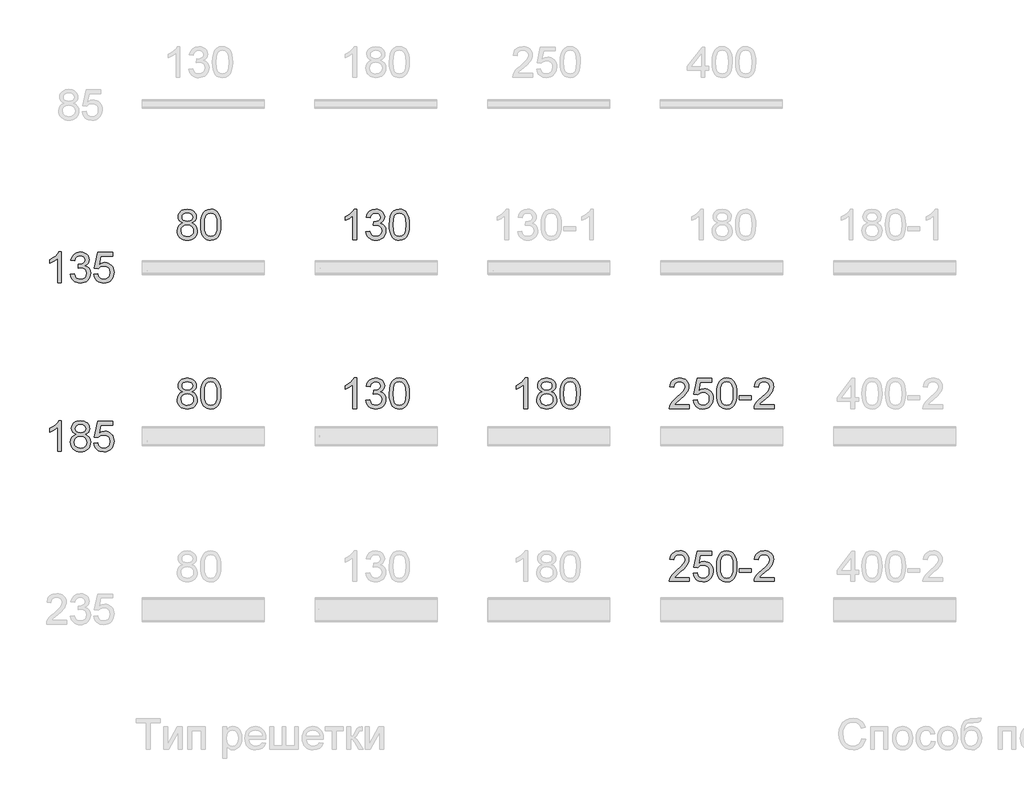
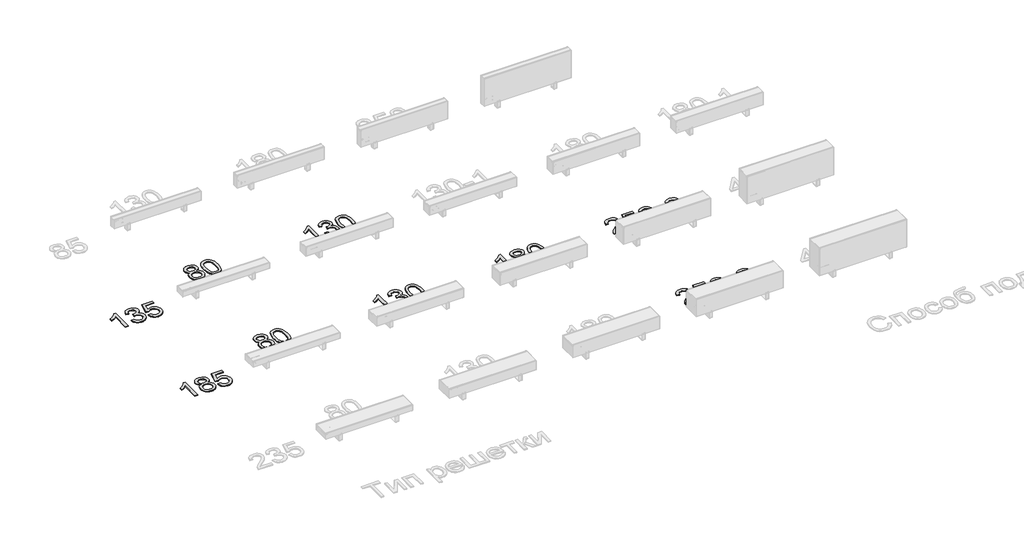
# One storey, part 4 of 7: 9 proxies.
"""IFC4 building model written with IfcOpenShell, lengths in millimetres."""

import ifcopenshell
import ifcopenshell.guid

model = None  # the IFC model being written
_history = None  # IfcOwnerHistory: only IFC2X3 demands one
_inside = {}  # id of a spatial element -> (the spatial element, [elements in it])
_under = {}  # id of a project, library or spatial element -> (it, [spatial elements below it])
_declared = {}  # id of a project -> (the project, [libraries it declares])
_typed = {}  # id of a type object -> (the type object, [elements of that type])
_made_of = {}  # id of a material, layer set ... -> (it, [elements and type objects made of it])


def new_model(schema):
    """Start an empty IFC model of exactly this schema.

    Asked for "IFC4X3", IfcOpenShell would pick the latest addendum, in which some entities
    have other attributes; the version numbers below select the first issue.
    IFC2X3 requires an IfcOwnerHistory on every rooted entity: one is made here for all.
    """
    global model, _history
    if schema == "IFC4X3":
        model = ifcopenshell.file(schema_version=(4, 3, 0, 0))
    else:
        model = ifcopenshell.file(schema=schema)
    _inside.clear()
    _under.clear()
    _declared.clear()
    _typed.clear()
    _made_of.clear()
    _history = None
    if model.schema == "IFC2X3":
        org = make("IfcOrganization", Name="unknown")
        user = make(
            "IfcPersonAndOrganization",
            ThePerson=make("IfcPerson", FamilyName="unknown"),
            TheOrganization=org,
        )
        app = make(
            "IfcApplication",
            ApplicationDeveloper=org,
            Version="unknown",
            ApplicationFullName="unknown",
            ApplicationIdentifier="unknown",
        )
        _history = make(
            "IfcOwnerHistory",
            OwningUser=user,
            OwningApplication=app,
            ChangeAction="ADDED",
            CreationDate=0,
        )
    return model


def make(cls, **values):
    """One entity of the class cls with the attributes given. An attribute that is None is left unset."""
    return model.create_entity(
        cls, **{name: value for name, value in values.items() if value is not None}
    )


def rooted(cls, **values):
    """An entity with a GlobalId (a new one), such as an element, a storey or a relation."""
    return make(cls, GlobalId=ifcopenshell.guid.new(), OwnerHistory=_history, **values)


def si_unit(unit_type, name, prefix=None):
    """IfcSIUnit, for example si_unit("LENGTHUNIT", "METRE", prefix="MILLI")."""
    return make("IfcSIUnit", UnitType=unit_type, Prefix=prefix, Name=name)


def assignment(units):
    """IfcUnitAssignment: the units of a project."""
    return None if units is None else make("IfcUnitAssignment", Units=units)


def point(xyz):
    """IfcCartesianPoint."""
    return None if xyz is None else make("IfcCartesianPoint", Coordinates=xyz)


def direction(xyz):
    """IfcDirection."""
    return None if xyz is None else make("IfcDirection", DirectionRatios=xyz)


def frame(location, z_axis=None, x_axis=None):
    """IfcAxis2Placement3D, a coordinate frame: its origin and axes. An axis left out is left unset."""
    return make(
        "IfcAxis2Placement3D",
        Location=point(location),
        Axis=direction(z_axis),
        RefDirection=direction(x_axis),
    )


def origin():
    """The frame at (0, 0, 0) with its axes left unset."""
    return frame((0.0, 0.0, 0.0))


def origin_with_axes():
    """The frame at (0, 0, 0) with the z axis (0, 0, 1) and the x axis (1, 0, 0) written out."""
    return frame((0.0, 0.0, 0.0), z_axis=(0.0, 0.0, 1.0), x_axis=(1.0, 0.0, 0.0))


def place(relative_to, where):
    """IfcLocalPlacement: puts the frame where relative to a parent placement (None: the world)."""
    return make(
        "IfcLocalPlacement", PlacementRelTo=relative_to, RelativePlacement=where
    )


def context(
    kind, dimensions, precision=None, world=None, true_north=None, identifier=None
):
    """IfcGeometricRepresentationContext, for example the 3D "Model" context."""
    return make(
        "IfcGeometricRepresentationContext",
        ContextIdentifier=identifier,
        ContextType=kind,
        CoordinateSpaceDimension=dimensions,
        Precision=precision,
        WorldCoordinateSystem=world,
        TrueNorth=true_north,
    )


def project(units=None, contexts=None):
    """IfcProject with its units and contexts."""
    return rooted(
        "IfcProject",
        Name="project",
        RepresentationContexts=contexts,
        UnitsInContext=assignment(units),
    )


def spatial(cls, under=None, at=None, **own):
    """A site, building, storey or space (cls), placed at a placement, below another one or the project."""
    s = rooted(cls, ObjectPlacement=at, **own)
    if under is not None:
        _under.setdefault(under.id(), (under, []))[1].append(s)
    return s


def polyline(points):
    """IfcPolyline through the points."""
    return make("IfcPolyline", Points=[point(p) for p in points])


def outline(outer, holes=None, kind="AREA"):
    """IfcArbitraryClosedProfileDef: a profile drawn as a closed curve; with holes, ...WithVoids."""
    if holes is None:
        return make("IfcArbitraryClosedProfileDef", ProfileType=kind, OuterCurve=outer)
    return make(
        "IfcArbitraryProfileDefWithVoids",
        ProfileType=kind,
        OuterCurve=outer,
        InnerCurves=holes,
    )


def extrude(swept, where, along, depth):
    """IfcExtrudedAreaSolid: the profile swept, set in the frame where, extruded along a direction by depth."""
    return make(
        "IfcExtrudedAreaSolid",
        SweptArea=swept,
        Position=where,
        ExtrudedDirection=direction(along),
        Depth=depth,
    )


def shape(context_of_items, identifier, shape_type, items):
    """IfcShapeRepresentation: the items that make up one representation, for example the "Body"."""
    return make(
        "IfcShapeRepresentation",
        ContextOfItems=context_of_items,
        RepresentationIdentifier=identifier,
        RepresentationType=shape_type,
        Items=items,
    )


def made_of(thing, what):
    """Note that an element or type object is made of a material, layer set ...; save() writes the relation."""
    if what is not None:
        _made_of.setdefault(what.id(), (what, []))[1].append(thing)
    return thing


def element(
    cls,
    number,
    at=None,
    inside=None,
    cuts=None,
    type_object=None,
    material=None,
    context=None,
    identifier="Body",
    shape_type=None,
    held_by="IfcProductDefinitionShape",
    body=None,
    shapes=None,
    **own,
):
    """One element of the class cls, such as IfcWall. Its Tag is "e" and its number.

    at: its placement. inside: the storey or other place that contains it. cuts: it is an
    opening in that element (IfcRelVoidsElement). A single representation is given by context,
    identifier, shape_type and body (its items); several are given by shapes. held_by: the class
    of the entity that holds the representations. save() writes the other relations.
    """
    e = rooted(cls, Tag="e%d" % number, ObjectPlacement=at, **own)
    if body is not None:
        shapes = [shape(context, identifier, shape_type, body)]
    if shapes is not None:
        e.Representation = make(held_by, Representations=shapes)
    if inside is not None:
        _inside.setdefault(inside.id(), (inside, []))[1].append(e)
    if cuts is not None:
        rooted(
            "IfcRelVoidsElement", RelatingBuildingElement=cuts, RelatedOpeningElement=e
        )
    if type_object is not None:
        _typed.setdefault(type_object.id(), (type_object, []))[1].append(e)
    return made_of(e, material)


def aggregate(whole, parts):
    """IfcRelAggregates: a whole, such as a stair, and the parts it consists of."""
    return rooted("IfcRelAggregates", RelatingObject=whole, RelatedObjects=parts)


def save(model, path):
    """Write the relations noted so far, then the file.

    IfcRelAggregates (storeys below a building ...), IfcRelContainedInSpatialStructure (elements
    in a storey), IfcRelDefinesByType, IfcRelAssociatesMaterial and IfcRelDeclares: one each for
    every whole, place, type object, material and project.
    """
    for whole, parts in _under.values():
        aggregate(whole, parts)
    for where, things in _inside.values():
        rooted(
            "IfcRelContainedInSpatialStructure",
            RelatedElements=things,
            RelatingStructure=where,
        )
    for kind, things in _typed.values():
        rooted("IfcRelDefinesByType", RelatedObjects=things, RelatingType=kind)
    for what, things in _made_of.values():
        rooted("IfcRelAssociatesMaterial", RelatedObjects=things, RelatingMaterial=what)
    for by, libraries in _declared.values():
        rooted("IfcRelDeclares", RelatingContext=by, RelatedDefinitions=libraries)
    model.write(path)


model = new_model("IFC4")

# Units and contexts
model_context = context("Model", 3, world=origin())
ifc_project = project(units=[si_unit("LENGTHUNIT", "METRE", prefix="MILLI")], contexts=[model_context])

# Site, building, storey
site = spatial("IfcSite", under=ifc_project)
building = spatial("IfcBuilding", under=site)
storey = spatial("IfcBuildingStorey", under=building, Name="Уровень 1", Elevation=0.0)

# Proxies
placement = place(None, origin())
element("IfcBuildingElementProxy", 1, Name="Текст модели 1", ObjectType="Текст модели 1", at=placement, inside=storey, context=model_context, shape_type="SweptSolid", body=[
    extrude(outline(polyline([(1521.1954966, -974.7822779), (1501.0263662, -964.849464), (1486.8721064, -951.384983), (1478.5119881, -934.6647463), (1475.725282, -914.9646655), (1477.2427952, -899.6009936), (1481.7953349, -885.5157117), (1489.382901, -872.7088198), (1500.0054937, -861.1803178), (1513.1526765, -851.6521741), (1528.3140132, -844.8463572), (1564.6791484, -839.4017036), (1601.2650128, -844.9751159), (1616.5918964, -851.9418812), (1629.9414143, -861.6953525), (1640.757145, -873.4491823), (1648.4826669, -886.4170226), (1653.11798, -900.5988735), (1654.6630844, -915.994735), (1651.9131665, -935.0602194), (1643.6634128, -951.4953476), (1629.8218527, -964.8770551), (1610.2965158, -974.7822779), (1633.4822786, -986.7292457), (1650.3588651, -1004.3232021), (1660.6503639, -1026.7180185), (1664.0808635, -1053.0675664), (1662.3794093, -1071.8571393), (1657.2750466, -1089.0832138), (1648.7677755, -1104.7457897), (1636.8575959, -1118.8448672), (1622.1699072, -1130.4975294), (1605.3301089, -1138.8208595), (1586.3382009, -1143.8148576), (1565.1941832, -1145.4795236), (1544.0501655, -1143.8079598), (1525.0582575, -1138.7932684), (1508.2184592, -1130.4354493), (1493.5307705, -1118.7345026), (1481.6205909, -1104.5365568), (1473.1133198, -1088.6877406), (1468.0089571, -1071.188054), (1466.3075029, -1052.0374969), (1469.8759582, -1024.6670764), (1480.5813243, -1002.1526983), (1497.8717781, -985.2669147), (1521.1954966, -974.7822779)]), holes=[polyline([(1503.9786192, -1050.7131217), (1510.2694013, -1079.0768235), (1518.9790076, -1091.2445205), (1532.526262, -1100.3036146), (1548.749858, -1105.9322091), (1565.4884888, -1107.8084073), (1591.1298639, -1103.8628729), (1610.3700922, -1092.0262697), (1622.3998334, -1074.1012195), (1626.4097472, -1051.8903441), (1622.2710747, -1029.3023896), (1609.8550574, -1010.9818662), (1590.1733707, -998.8417604), (1564.23769, -994.7950584), (1538.9549999, -998.7865781), (1519.9079096, -1010.761137), (1507.9609418, -1028.7321725), (1503.9786192, -1050.7131217)]), polyline([(1513.3963983, -916.0683114), (1516.7349274, -932.5126366), (1526.7505147, -945.6460238), (1543.1488546, -954.2544625), (1565.6356416, -957.1239421), (1587.5981967, -954.2728566), (1603.7482163, -945.7196002), (1613.6810302, -933.0276714), (1616.9919681, -917.7605686), (1613.5706656, -901.9140517), (1603.3067579, -888.8082556), (1586.9360091, -880.0066789), (1565.1941832, -877.0728199), (1543.3144015, -879.9422995), (1526.9712439, -888.5507382), (1516.7901097, -901.1690906), (1513.3963983, -916.0683114)])]), origin_with_axes(), (0.0, 0.0, 1.0), 10.0),
    extrude(outline(polyline([(1697.0430903, -992.51419), (1699.8114023, -944.2756634), (1708.1163383, -905.8044038), (1721.8751249, -876.5117999), (1741.0049887, -855.8092406), (1765.6438853, -843.5035879), (1795.9297706, -839.4017036), (1819.1431245, -841.8297248), (1839.9284572, -849.1137883), (1857.3108815, -860.9687856), (1870.31551, -877.1096081), (1880.1379593, -897.3983002), (1887.9738458, -921.696906), (1893.1057996, -952.5530083), (1894.8164509, -992.51419), (1892.07573, -1040.4768052), (1883.8535674, -1078.8560943), (1870.1775542, -1108.1762893), (1851.0752817, -1128.961622), (1826.3812027, -1141.3500482), (1795.9297706, -1145.4795236), (1775.181226, -1143.6860989), (1756.7871263, -1138.3058247), (1740.7474713, -1129.3387011), (1727.0622611, -1116.784728), (1713.9288738, -1094.0910074), (1704.547883, -1065.8146776), (1698.9192884, -1031.9557384), (1697.0430903, -992.51419)]), holes=[polyline([(1734.7142066, -992.4406136), (1739.1287905, -1051.697206), (1744.6470204, -1071.9652047), (1752.3725423, -1085.993005), (1772.0910173, -1102.3545567), (1795.9297706, -1107.8084073), (1819.7685239, -1102.3361626), (1839.4869988, -1085.9194286), (1847.2125207, -1071.8686357), (1852.7307506, -1051.6052355), (1857.1453346, -992.4406136), (1852.8779034, -934.5175935), (1847.5436145, -914.3162734), (1840.07561, -899.95508), (1820.3939233, -882.793385), (1795.4883122, -877.0728199), (1771.9070763, -882.1128033), (1752.9611535, -897.2327533), (1744.9781142, -912.8677381), (1739.2759433, -933.9473764), (1734.7142066, -992.4406136)])]), origin_with_axes(), (0.0, 0.0, 1.0), 10.0),
])
element("IfcBuildingElementProxy", 2, Name="Текст модели 1", ObjectType="Текст модели 1", at=placement, inside=storey, context=model_context, shape_type="SweptSolid", body=[
    extrude(outline(polyline([(326.9394751, -1561.3403521), (289.2683588, -1561.3403521), (289.2683588, -1326.4844864), (253.5838053, -1351.9051323), (213.9261262, -1370.9246314), (213.9261262, -1335.3136543), (243.5130357, -1319.218817), (269.1452137, -1300.0705591), (289.3511323, -1279.7082907), (302.6592634, -1259.9714217), (326.9394751, -1259.9714217), (326.9394751, -1561.3403521)])), origin_with_axes(), (0.0, 0.0, 1.0), 10.0),
    extrude(outline(polyline([(416.4083764, -1481.28923), (454.0794927, -1476.5803404), (462.5131874, -1500.2535468), (474.8648254, -1516.2380195), (491.7414119, -1525.3430989), (513.7499523, -1528.3781253), (539.5752683, -1524.2026647), (559.5144725, -1511.6762828), (572.2615836, -1492.9878774), (576.5106207, -1470.3263465), (572.2983718, -1448.8144468), (559.6616253, -1431.3676432), (540.5317615, -1419.8069515), (516.840161, -1415.9533876), (490.4262338, -1420.073666), (494.6200885, -1382.4025497), (500.6533533, -1382.844008), (523.2229137, -1380.1400754), (543.4012411, -1372.0282774), (557.6382743, -1358.306279), (562.383952, -1338.771745), (558.9442554, -1322.5021638), (548.6251654, -1309.3043972), (532.879816, -1300.5580028), (513.1613411, -1297.642538), (493.4060779, -1300.5855939), (477.2560584, -1309.4147618), (465.4654404, -1324.1300416), (458.7883822, -1344.7314333), (421.1172659, -1340.0225438), (432.2089081, -1306.1957944), (451.9457771, -1280.9406954), (478.9483155, -1265.2137401), (511.8369659, -1259.9714217), (535.5193693, -1262.5557927), (557.2703923, -1270.3089057), (575.6093098, -1282.5409821), (589.0553967, -1298.562243), (597.3051504, -1317.0207221), (600.0550684, -1336.5644531), (597.4431062, -1354.7746118), (589.6072197, -1371.2925134), (576.6577735, -1385.3639997), (558.7051321, -1396.2349127), (582.286368, -1405.7630563), (599.7607628, -1421.9866523), (610.5764934, -1444.0227838), (614.181737, -1470.9885341), (612.3791152, -1490.1000037), (606.9712499, -1507.7031572), (597.958141, -1523.7979945), (585.3397885, -1538.3845156), (569.9669197, -1550.4878332), (552.6902615, -1559.1330601), (533.5098139, -1564.3201963), (512.4255771, -1566.0492416), (493.3692897, -1564.5731151), (476.0052596, -1560.1447356), (460.3334866, -1552.7641031), (446.3539708, -1542.4312176), (434.6323307, -1529.7530843), (425.7341849, -1515.3367086), (419.6595335, -1499.1820905), (416.4083764, -1481.28923)])), origin_with_axes(), (0.0, 0.0, 1.0), 10.0),
    extrude(outline(polyline([(647.1439637, -1481.28923), (684.81508, -1476.5803404), (691.7312615, -1499.1958861), (703.797791, -1515.3918909), (720.9594861, -1525.1315667), (743.1611645, -1528.3781253), (770.1637029, -1523.8623738), (790.3972127, -1510.3151194), (803.0339592, -1489.2998604), (807.246208, -1462.3800954), (803.3006736, -1437.0330259), (791.4640704, -1417.6456448), (771.644428, -1405.3399921), (743.7497757, -1401.2381078), (725.4752376, -1402.8751827), (710.6771843, -1407.7864073), (689.5239696, -1424.7825555), (651.8528533, -1420.073666), (684.81508, -1264.6803112), (830.7906557, -1264.6803112), (830.7906557, -1302.3514275), (715.2757092, -1302.3514275), (699.1624779, -1385.3456056), (726.0730458, -1369.011645), (754.2712007, -1363.5669915), (772.617016, -1365.2546502), (789.4683106, -1370.3176261), (804.8250847, -1378.7559194), (818.6873381, -1390.5695299), (830.1629571, -1405.0364894), (838.3598278, -1421.4348293), (843.2779502, -1439.7645497), (844.9173243, -1460.0256506), (839.0128183, -1497.6967669), (831.6321858, -1514.49058), (821.2993002, -1529.9232297), (805.6459214, -1545.7283599), (787.3805803, -1557.0177387), (766.5032771, -1563.7913659), (743.0140117, -1566.0492416), (706.01428, -1560.2459032), (690.3356092, -1552.9917301), (676.5377351, -1542.8358877), (665.0575176, -1530.2842139), (656.3318166, -1515.8425464), (647.1439637, -1481.28923)])), origin_with_axes(), (0.0, 0.0, 1.0), 10.0),
])
element("IfcBuildingElementProxy", 3, Name="Текст модели 1", ObjectType="Текст модели 1", at=placement, inside=storey, context=model_context, shape_type="SweptSolid", body=[
    extrude(outline(polyline([(3232.2063954, -1140.7706341), (3194.535279, -1140.7706341), (3194.535279, -905.9147684), (3158.8507255, -931.3354142), (3119.1930464, -950.3549134), (3119.1930464, -914.7439363), (3148.7799559, -898.649099), (3174.4121339, -879.5008411), (3194.6180525, -859.1385727), (3207.9261837, -839.4017036), (3232.2063954, -839.4017036), (3232.2063954, -1140.7706341)])), origin_with_axes(), (0.0, 0.0, 1.0), 10.0),
    extrude(outline(polyline([(3321.6752966, -1060.7195119), (3359.3464129, -1056.0106224), (3367.7801076, -1079.6838288), (3380.1317456, -1095.6683015), (3397.0083321, -1104.7733809), (3419.0168725, -1107.8084073), (3444.8421886, -1103.6329467), (3464.7813927, -1091.1065647), (3477.5285038, -1072.4181594), (3481.7775409, -1049.7566285), (3477.565292, -1028.2447288), (3464.9285455, -1010.7979252), (3445.7986818, -999.2372335), (3422.1070813, -995.3836696), (3395.693154, -999.5039479), (3399.8870088, -961.8328316), (3405.9202735, -962.27429), (3428.4898339, -959.5703574), (3448.6681613, -951.4585594), (3462.9051945, -937.736561), (3467.6508723, -918.202027), (3464.2111756, -901.9324458), (3453.8920856, -888.7346792), (3438.1467363, -879.9882848), (3418.4282613, -877.0728199), (3398.6729982, -880.0158759), (3382.5229786, -888.8450438), (3370.7323606, -903.5603236), (3364.0553024, -924.1617153), (3326.3841861, -919.4528258), (3337.4758283, -885.6260763), (3357.2126973, -860.3709774), (3384.2152358, -844.6440221), (3417.1038861, -839.4017036), (3440.7862896, -841.9860747), (3462.5373125, -849.7391877), (3480.87623, -861.971264), (3494.3223169, -877.9925249), (3502.5720707, -896.451004), (3505.3219886, -915.994735), (3502.7100264, -934.2048938), (3494.8741399, -950.7227954), (3481.9246937, -964.7942817), (3463.9720523, -975.6651947), (3487.5532882, -985.1933383), (3505.027683, -1001.4169343), (3515.8434136, -1023.4530658), (3519.4486572, -1050.4188161), (3517.6460354, -1069.5302857), (3512.2381701, -1087.1334392), (3503.2250612, -1103.2282765), (3490.6067088, -1117.8147976), (3475.2338399, -1129.9181152), (3457.9571817, -1138.5633421), (3438.7767342, -1143.7504783), (3417.6924973, -1145.4795236), (3398.63621, -1144.0033971), (3381.2721798, -1139.5750176), (3365.6004068, -1132.1943851), (3351.620891, -1121.8614995), (3339.8992509, -1109.1833663), (3331.0011052, -1094.7669906), (3324.9264537, -1078.6123725), (3321.6752966, -1060.7195119)])), origin_with_axes(), (0.0, 0.0, 1.0), 10.0),
    extrude(outline(polyline([(3552.410884, -992.51419), (3555.179196, -944.2756634), (3563.484132, -905.8044038), (3577.2429186, -876.5117999), (3596.3727824, -855.8092406), (3621.011679, -843.5035879), (3651.2975643, -839.4017036), (3674.5109182, -841.8297248), (3695.2962509, -849.1137883), (3712.6786752, -860.9687856), (3725.6833037, -877.1096081), (3735.505753, -897.3983002), (3743.3416395, -921.696906), (3748.4735933, -952.5530083), (3750.1842446, -992.51419), (3747.4435237, -1040.4768052), (3739.2213611, -1078.8560943), (3725.5453479, -1108.1762893), (3706.4430753, -1128.961622), (3681.7489964, -1141.3500482), (3651.2975643, -1145.4795236), (3630.5490197, -1143.6860989), (3612.15492, -1138.3058247), (3596.115265, -1129.3387011), (3582.4300548, -1116.784728), (3569.2966675, -1094.0910074), (3559.9156767, -1065.8146776), (3554.2870821, -1031.9557384), (3552.410884, -992.51419)]), holes=[polyline([(3590.0820003, -992.4406136), (3594.4965842, -1051.697206), (3600.0148141, -1071.9652047), (3607.740336, -1085.993005), (3627.458811, -1102.3545567), (3651.2975643, -1107.8084073), (3675.1363175, -1102.3361626), (3694.8547925, -1085.9194286), (3702.5803144, -1071.8686357), (3708.0985443, -1051.6052355), (3712.5131283, -992.4406136), (3708.2456971, -934.5175935), (3702.9114082, -914.3162734), (3695.4434037, -899.95508), (3675.7617169, -882.793385), (3650.8561059, -877.0728199), (3627.27487, -882.1128033), (3608.3289472, -897.2327533), (3600.3459079, -912.8677381), (3594.643737, -933.9473764), (3590.0820003, -992.4406136)])]), origin_with_axes(), (0.0, 0.0, 1.0), 10.0),
])
element("IfcBuildingElementProxy", 4, Name="Текст модели 1", ObjectType="Текст модели 1", at=placement, inside=storey, context=model_context, shape_type="SweptSolid", body=[
    extrude(outline(polyline([(1521.1954966, -2634.7822779), (1501.0263662, -2624.849464), (1486.8721064, -2611.384983), (1478.5119881, -2594.6647463), (1475.725282, -2574.9646655), (1477.2427952, -2559.6009936), (1481.7953349, -2545.5157117), (1489.382901, -2532.7088198), (1500.0054937, -2521.1803178), (1513.1526765, -2511.6521741), (1528.3140132, -2504.8463572), (1564.6791484, -2499.4017036), (1601.2650128, -2504.9751159), (1616.5918964, -2511.9418812), (1629.9414143, -2521.6953525), (1640.757145, -2533.4491823), (1648.4826669, -2546.4170226), (1653.11798, -2560.5988735), (1654.6630844, -2575.994735), (1651.9131665, -2595.0602194), (1643.6634128, -2611.4953476), (1629.8218527, -2624.8770551), (1610.2965158, -2634.7822779), (1633.4822786, -2646.7292457), (1650.3588651, -2664.3232021), (1660.6503639, -2686.7180185), (1664.0808635, -2713.0675664), (1662.3794093, -2731.8571393), (1657.2750466, -2749.0832138), (1648.7677755, -2764.7457897), (1636.8575959, -2778.8448672), (1622.1699072, -2790.4975294), (1605.3301089, -2798.8208595), (1586.3382009, -2803.8148576), (1565.1941832, -2805.4795236), (1544.0501655, -2803.8079598), (1525.0582575, -2798.7932684), (1508.2184592, -2790.4354493), (1493.5307705, -2778.7345026), (1481.6205909, -2764.5365568), (1473.1133198, -2748.6877406), (1468.0089571, -2731.188054), (1466.3075029, -2712.0374969), (1469.8759582, -2684.6670764), (1480.5813243, -2662.1526983), (1497.8717781, -2645.2669147), (1521.1954966, -2634.7822779)]), holes=[polyline([(1503.9786192, -2710.7131217), (1510.2694013, -2739.0768235), (1518.9790076, -2751.2445205), (1532.526262, -2760.3036146), (1548.749858, -2765.9322091), (1565.4884888, -2767.8084073), (1591.1298639, -2763.8628729), (1610.3700922, -2752.0262697), (1622.3998334, -2734.1012195), (1626.4097472, -2711.8903441), (1622.2710747, -2689.3023896), (1609.8550574, -2670.9818662), (1590.1733707, -2658.8417604), (1564.23769, -2654.7950584), (1538.9549999, -2658.7865781), (1519.9079096, -2670.761137), (1507.9609418, -2688.7321725), (1503.9786192, -2710.7131217)]), polyline([(1513.3963983, -2576.0683114), (1516.7349274, -2592.5126366), (1526.7505147, -2605.6460238), (1543.1488546, -2614.2544625), (1565.6356416, -2617.1239421), (1587.5981967, -2614.2728566), (1603.7482163, -2605.7196002), (1613.6810302, -2593.0276714), (1616.9919681, -2577.7605686), (1613.5706656, -2561.9140517), (1603.3067579, -2548.8082556), (1586.9360091, -2540.0066789), (1565.1941832, -2537.0728199), (1543.3144015, -2539.9422995), (1526.9712439, -2548.5507382), (1516.7901097, -2561.1690906), (1513.3963983, -2576.0683114)])]), origin_with_axes(), (0.0, 0.0, 1.0), 10.0),
    extrude(outline(polyline([(1697.0430903, -2652.51419), (1699.8114023, -2604.2756634), (1708.1163383, -2565.8044038), (1721.8751249, -2536.5117999), (1741.0049887, -2515.8092406), (1765.6438853, -2503.5035879), (1795.9297706, -2499.4017036), (1819.1431245, -2501.8297248), (1839.9284572, -2509.1137883), (1857.3108815, -2520.9687856), (1870.31551, -2537.1096081), (1880.1379593, -2557.3983002), (1887.9738458, -2581.696906), (1893.1057996, -2612.5530083), (1894.8164509, -2652.51419), (1892.07573, -2700.4768052), (1883.8535674, -2738.8560943), (1870.1775542, -2768.1762893), (1851.0752817, -2788.961622), (1826.3812027, -2801.3500482), (1795.9297706, -2805.4795236), (1775.181226, -2803.6860989), (1756.7871263, -2798.3058247), (1740.7474713, -2789.3387011), (1727.0622611, -2776.784728), (1713.9288738, -2754.0910074), (1704.547883, -2725.8146776), (1698.9192884, -2691.9557384), (1697.0430903, -2652.51419)]), holes=[polyline([(1734.7142066, -2652.4406136), (1739.1287905, -2711.697206), (1744.6470204, -2731.9652047), (1752.3725423, -2745.993005), (1772.0910173, -2762.3545567), (1795.9297706, -2767.8084073), (1819.7685239, -2762.3361626), (1839.4869988, -2745.9194286), (1847.2125207, -2731.8686357), (1852.7307506, -2711.6052355), (1857.1453346, -2652.4406136), (1852.8779034, -2594.5175935), (1847.5436145, -2574.3162734), (1840.07561, -2559.95508), (1820.3939233, -2542.793385), (1795.4883122, -2537.0728199), (1771.9070763, -2542.1128033), (1752.9611535, -2557.2327533), (1744.9781142, -2572.8677381), (1739.2759433, -2593.9473764), (1734.7142066, -2652.4406136)])]), origin_with_axes(), (0.0, 0.0, 1.0), 10.0),
])
element("IfcBuildingElementProxy", 5, Name="Текст модели 1", ObjectType="Текст модели 1", at=placement, inside=storey, context=model_context, shape_type="SweptSolid", body=[
    extrude(outline(polyline([(326.9394751, -3221.3403521), (289.2683588, -3221.3403521), (289.2683588, -2986.4844864), (253.5838053, -3011.9051323), (213.9261262, -3030.9246314), (213.9261262, -2995.3136543), (243.5130357, -2979.218817), (269.1452137, -2960.0705591), (289.3511323, -2939.7082907), (302.6592634, -2919.9714217), (326.9394751, -2919.9714217), (326.9394751, -3221.3403521)])), origin_with_axes(), (0.0, 0.0, 1.0), 10.0),
    extrude(outline(polyline([(471.29637, -3055.3519959), (451.1272397, -3045.419182), (436.9729799, -3031.954701), (428.6128615, -3015.2344643), (425.8261554, -2995.5343835), (427.3436687, -2980.1707116), (431.8962084, -2966.0854298), (439.4837745, -2953.2785378), (450.1063671, -2941.7500358), (463.2535499, -2932.2218921), (478.4148866, -2925.4160752), (514.7800219, -2919.9714217), (551.3658863, -2925.5448339), (566.6927699, -2932.5115992), (580.0422878, -2942.2650706), (590.8580185, -2954.0189003), (598.5835404, -2966.9867406), (603.2188535, -2981.1685916), (604.7639579, -2996.5644531), (602.01404, -3015.6299375), (593.7642862, -3032.0650656), (579.9227262, -3045.4467732), (560.3973893, -3055.3519959), (583.583152, -3067.2989637), (600.4597385, -3084.8929201), (610.7512374, -3107.2877366), (614.181737, -3133.6372845), (612.4802827, -3152.4268574), (607.3759201, -3169.6529318), (598.8686489, -3185.3155077), (586.9584693, -3199.4145852), (572.2707807, -3211.0672474), (555.4309823, -3219.3905775), (536.4390743, -3224.3845756), (515.2950567, -3226.0492416), (494.151039, -3224.3776778), (475.159131, -3219.3629864), (458.3193327, -3211.0051673), (443.631644, -3199.3042206), (431.7214644, -3185.1062748), (423.2141933, -3169.2574586), (418.1098306, -3151.757772), (416.4083764, -3132.6072149), (419.9768317, -3105.2367944), (430.6821978, -3082.7224163), (447.9726515, -3065.8366327), (471.29637, -3055.3519959)]), holes=[polyline([(454.0794927, -3131.2828397), (460.3702748, -3159.6465415), (469.079881, -3171.8142385), (482.6271355, -3180.8733326), (498.8507315, -3186.5019272), (515.5893623, -3188.3781253), (541.2307373, -3184.4325909), (560.4709657, -3172.5959877), (572.5007069, -3154.6709375), (576.5106207, -3132.4600621), (572.3719482, -3109.8721076), (559.9559309, -3091.5515842), (540.2742441, -3079.4114784), (514.3385635, -3075.3647764), (489.0558734, -3079.3562961), (470.0087831, -3091.330855), (458.0618153, -3109.3018905), (454.0794927, -3131.2828397)]), polyline([(463.4972717, -2996.6380295), (466.8358008, -3013.0823546), (476.8513882, -3026.2157419), (493.2497281, -3034.8241806), (515.7365151, -3037.6936601), (537.6990702, -3034.8425747), (553.8490898, -3026.2893183), (563.7819036, -3013.5973894), (567.0928416, -2998.3302866), (563.671539, -2982.4837697), (553.4076314, -2969.3779736), (537.0368826, -2960.5763969), (515.2950567, -2957.642538), (493.415275, -2960.5120175), (477.0721174, -2969.1204562), (466.8909831, -2981.7388086), (463.4972717, -2996.6380295)])]), origin_with_axes(), (0.0, 0.0, 1.0), 10.0),
    extrude(outline(polyline([(647.1439637, -3141.28923), (684.81508, -3136.5803404), (691.7312615, -3159.1958861), (703.797791, -3175.3918909), (720.9594861, -3185.1315667), (743.1611645, -3188.3781253), (770.1637029, -3183.8623738), (790.3972127, -3170.3151194), (803.0339592, -3149.2998604), (807.246208, -3122.3800954), (803.3006736, -3097.0330259), (791.4640704, -3077.6456448), (771.644428, -3065.3399921), (743.7497757, -3061.2381078), (725.4752376, -3062.8751827), (710.6771843, -3067.7864073), (689.5239696, -3084.7825555), (651.8528533, -3080.073666), (684.81508, -2924.6803112), (830.7906557, -2924.6803112), (830.7906557, -2962.3514275), (715.2757092, -2962.3514275), (699.1624779, -3045.3456056), (726.0730458, -3029.011645), (754.2712007, -3023.5669915), (772.617016, -3025.2546502), (789.4683106, -3030.3176261), (804.8250847, -3038.7559194), (818.6873381, -3050.5695299), (830.1629571, -3065.0364894), (838.3598278, -3081.4348293), (843.2779502, -3099.7645497), (844.9173243, -3120.0256506), (839.0128183, -3157.6967669), (831.6321858, -3174.49058), (821.2993002, -3189.9232297), (805.6459214, -3205.7283599), (787.3805803, -3217.0177387), (766.5032771, -3223.7913659), (743.0140117, -3226.0492416), (706.01428, -3220.2459032), (690.3356092, -3212.9917301), (676.5377351, -3202.8358877), (665.0575176, -3190.2842139), (656.3318166, -3175.8425464), (647.1439637, -3141.28923)])), origin_with_axes(), (0.0, 0.0, 1.0), 10.0),
])
element("IfcBuildingElementProxy", 6, Name="Текст модели 1", ObjectType="Текст модели 1", at=placement, inside=storey, context=model_context, shape_type="SweptSolid", body=[
    extrude(outline(polyline([(3232.2063954, -2800.7706341), (3194.535279, -2800.7706341), (3194.535279, -2565.9147684), (3158.8507255, -2591.3354142), (3119.1930464, -2610.3549134), (3119.1930464, -2574.7439363), (3148.7799559, -2558.649099), (3174.4121339, -2539.5008411), (3194.6180525, -2519.1385727), (3207.9261837, -2499.4017036), (3232.2063954, -2499.4017036), (3232.2063954, -2800.7706341)])), origin_with_axes(), (0.0, 0.0, 1.0), 10.0),
    extrude(outline(polyline([(3321.6752966, -2720.7195119), (3359.3464129, -2716.0106224), (3367.7801076, -2739.6838288), (3380.1317456, -2755.6683015), (3397.0083321, -2764.7733809), (3419.0168725, -2767.8084073), (3444.8421886, -2763.6329467), (3464.7813927, -2751.1065647), (3477.5285038, -2732.4181594), (3481.7775409, -2709.7566285), (3477.565292, -2688.2447288), (3464.9285455, -2670.7979252), (3445.7986818, -2659.2372335), (3422.1070813, -2655.3836696), (3395.693154, -2659.5039479), (3399.8870088, -2621.8328316), (3405.9202735, -2622.27429), (3428.4898339, -2619.5703574), (3448.6681613, -2611.4585594), (3462.9051945, -2597.736561), (3467.6508723, -2578.202027), (3464.2111756, -2561.9324458), (3453.8920856, -2548.7346792), (3438.1467363, -2539.9882848), (3418.4282613, -2537.0728199), (3398.6729982, -2540.0158759), (3382.5229786, -2548.8450438), (3370.7323606, -2563.5603236), (3364.0553024, -2584.1617153), (3326.3841861, -2579.4528258), (3337.4758283, -2545.6260763), (3357.2126973, -2520.3709774), (3384.2152358, -2504.6440221), (3417.1038861, -2499.4017036), (3440.7862896, -2501.9860747), (3462.5373125, -2509.7391877), (3480.87623, -2521.971264), (3494.3223169, -2537.9925249), (3502.5720707, -2556.451004), (3505.3219886, -2575.994735), (3502.7100264, -2594.2048938), (3494.8741399, -2610.7227954), (3481.9246937, -2624.7942817), (3463.9720523, -2635.6651947), (3487.5532882, -2645.1933383), (3505.027683, -2661.4169343), (3515.8434136, -2683.4530658), (3519.4486572, -2710.4188161), (3517.6460354, -2729.5302857), (3512.2381701, -2747.1334392), (3503.2250612, -2763.2282765), (3490.6067088, -2777.8147976), (3475.2338399, -2789.9181152), (3457.9571817, -2798.5633421), (3438.7767342, -2803.7504783), (3417.6924973, -2805.4795236), (3398.63621, -2804.0033971), (3381.2721798, -2799.5750176), (3365.6004068, -2792.1943851), (3351.620891, -2781.8614995), (3339.8992509, -2769.1833663), (3331.0011052, -2754.7669906), (3324.9264537, -2738.6123725), (3321.6752966, -2720.7195119)])), origin_with_axes(), (0.0, 0.0, 1.0), 10.0),
    extrude(outline(polyline([(3552.410884, -2652.51419), (3555.179196, -2604.2756634), (3563.484132, -2565.8044038), (3577.2429186, -2536.5117999), (3596.3727824, -2515.8092406), (3621.011679, -2503.5035879), (3651.2975643, -2499.4017036), (3674.5109182, -2501.8297248), (3695.2962509, -2509.1137883), (3712.6786752, -2520.9687856), (3725.6833037, -2537.1096081), (3735.505753, -2557.3983002), (3743.3416395, -2581.696906), (3748.4735933, -2612.5530083), (3750.1842446, -2652.51419), (3747.4435237, -2700.4768052), (3739.2213611, -2738.8560943), (3725.5453479, -2768.1762893), (3706.4430753, -2788.961622), (3681.7489964, -2801.3500482), (3651.2975643, -2805.4795236), (3630.5490197, -2803.6860989), (3612.15492, -2798.3058247), (3596.115265, -2789.3387011), (3582.4300548, -2776.784728), (3569.2966675, -2754.0910074), (3559.9156767, -2725.8146776), (3554.2870821, -2691.9557384), (3552.410884, -2652.51419)]), holes=[polyline([(3590.0820003, -2652.4406136), (3594.4965842, -2711.697206), (3600.0148141, -2731.9652047), (3607.740336, -2745.993005), (3627.458811, -2762.3545567), (3651.2975643, -2767.8084073), (3675.1363175, -2762.3361626), (3694.8547925, -2745.9194286), (3702.5803144, -2731.8686357), (3708.0985443, -2711.6052355), (3712.5131283, -2652.4406136), (3708.2456971, -2594.5175935), (3702.9114082, -2574.3162734), (3695.4434037, -2559.95508), (3675.7617169, -2542.793385), (3650.8561059, -2537.0728199), (3627.27487, -2542.1128033), (3608.3289472, -2557.2327533), (3600.3459079, -2572.8677381), (3594.643737, -2593.9473764), (3590.0820003, -2652.4406136)])]), origin_with_axes(), (0.0, 0.0, 1.0), 10.0),
])
element("IfcBuildingElementProxy", 7, Name="Текст модели 1", ObjectType="Текст модели 1", at=placement, inside=storey, context=model_context, shape_type="SweptSolid", body=[
    extrude(outline(polyline([(4912.2063954, -2800.7706341), (4874.535279, -2800.7706341), (4874.535279, -2565.9147684), (4838.8507255, -2591.3354142), (4799.1930464, -2610.3549134), (4799.1930464, -2574.7439363), (4828.7799559, -2558.649099), (4854.4121339, -2539.5008411), (4874.6180525, -2519.1385727), (4887.9261837, -2499.4017036), (4912.2063954, -2499.4017036), (4912.2063954, -2800.7706341)])), origin_with_axes(), (0.0, 0.0, 1.0), 10.0),
    extrude(outline(polyline([(5056.5632903, -2634.7822779), (5036.3941599, -2624.849464), (5022.2399001, -2611.384983), (5013.8797818, -2594.6647463), (5011.0930757, -2574.9646655), (5012.6105889, -2559.6009936), (5017.1631286, -2545.5157117), (5024.7506947, -2532.7088198), (5035.3732873, -2521.1803178), (5048.5204701, -2511.6521741), (5063.6818069, -2504.8463572), (5100.0469421, -2499.4017036), (5136.6328065, -2504.9751159), (5151.9596901, -2511.9418812), (5165.309208, -2521.6953525), (5176.1249387, -2533.4491823), (5183.8504606, -2546.4170226), (5188.4857737, -2560.5988735), (5190.0308781, -2575.994735), (5187.2809602, -2595.0602194), (5179.0312065, -2611.4953476), (5165.1896464, -2624.8770551), (5145.6643095, -2634.7822779), (5168.8500722, -2646.7292457), (5185.7266588, -2664.3232021), (5196.0181576, -2686.7180185), (5199.4486572, -2713.0675664), (5197.747203, -2731.8571393), (5192.6428403, -2749.0832138), (5184.1355691, -2764.7457897), (5172.2253895, -2778.8448672), (5157.5377009, -2790.4975294), (5140.6979026, -2798.8208595), (5121.7059946, -2803.8148576), (5100.5619769, -2805.4795236), (5079.4179592, -2803.8079598), (5060.4260512, -2798.7932684), (5043.5862529, -2790.4354493), (5028.8985642, -2778.7345026), (5016.9883846, -2764.5365568), (5008.4811135, -2748.6877406), (5003.3767508, -2731.188054), (5001.6752966, -2712.0374969), (5005.2437519, -2684.6670764), (5015.949118, -2662.1526983), (5033.2395718, -2645.2669147), (5056.5632903, -2634.7822779)]), holes=[polyline([(5039.3464129, -2710.7131217), (5045.637195, -2739.0768235), (5054.3468012, -2751.2445205), (5067.8940557, -2760.3036146), (5084.1176517, -2765.9322091), (5100.8562825, -2767.8084073), (5126.4976575, -2763.8628729), (5145.7378859, -2752.0262697), (5157.7676271, -2734.1012195), (5161.7775409, -2711.8903441), (5157.6388684, -2689.3023896), (5145.2228511, -2670.9818662), (5125.5411644, -2658.8417604), (5099.6054837, -2654.7950584), (5074.3227936, -2658.7865781), (5055.2757033, -2670.761137), (5043.3287355, -2688.7321725), (5039.3464129, -2710.7131217)]), polyline([(5048.764192, -2576.0683114), (5052.1027211, -2592.5126366), (5062.1183084, -2605.6460238), (5078.5166483, -2614.2544625), (5101.0034353, -2617.1239421), (5122.9659904, -2614.2728566), (5139.11601, -2605.7196002), (5149.0488238, -2593.0276714), (5152.3597618, -2577.7605686), (5148.9384593, -2561.9140517), (5138.6745516, -2548.8082556), (5122.3038028, -2540.0066789), (5100.5619769, -2537.0728199), (5078.6821952, -2539.9422995), (5062.3390376, -2548.5507382), (5052.1579034, -2561.1690906), (5048.764192, -2576.0683114)])]), origin_with_axes(), (0.0, 0.0, 1.0), 10.0),
    extrude(outline(polyline([(5232.410884, -2652.51419), (5235.179196, -2604.2756634), (5243.484132, -2565.8044038), (5257.2429186, -2536.5117999), (5276.3727824, -2515.8092406), (5301.011679, -2503.5035879), (5331.2975643, -2499.4017036), (5354.5109182, -2501.8297248), (5375.2962509, -2509.1137883), (5392.6786752, -2520.9687856), (5405.6833037, -2537.1096081), (5415.505753, -2557.3983002), (5423.3416395, -2581.696906), (5428.4735933, -2612.5530083), (5430.1842446, -2652.51419), (5427.4435237, -2700.4768052), (5419.2213611, -2738.8560943), (5405.5453479, -2768.1762893), (5386.4430753, -2788.961622), (5361.7489964, -2801.3500482), (5331.2975643, -2805.4795236), (5310.5490197, -2803.6860989), (5292.15492, -2798.3058247), (5276.115265, -2789.3387011), (5262.4300548, -2776.784728), (5249.2966675, -2754.0910074), (5239.9156767, -2725.8146776), (5234.2870821, -2691.9557384), (5232.410884, -2652.51419)]), holes=[polyline([(5270.0820003, -2652.4406136), (5274.4965842, -2711.697206), (5280.0148141, -2731.9652047), (5287.740336, -2745.993005), (5307.458811, -2762.3545567), (5331.2975643, -2767.8084073), (5355.1363175, -2762.3361626), (5374.8547925, -2745.9194286), (5382.5803144, -2731.8686357), (5388.0985443, -2711.6052355), (5392.5131283, -2652.4406136), (5388.2456971, -2594.5175935), (5382.9114082, -2574.3162734), (5375.4434037, -2559.95508), (5355.7617169, -2542.793385), (5330.8561059, -2537.0728199), (5307.27487, -2542.1128033), (5288.3289472, -2557.2327533), (5280.3459079, -2572.8677381), (5274.643737, -2593.9473764), (5270.0820003, -2652.4406136)])]), origin_with_axes(), (0.0, 0.0, 1.0), 10.0),
])
element("IfcBuildingElementProxy", 8, Name="Текст модели 1", ObjectType="Текст модели 1", at=placement, inside=storey, context=model_context, shape_type="SweptSolid", body=[
    extrude(outline(polyline([(6504.1064246, -2763.0995178), (6504.1064246, -2800.7706341), (6306.333064, -2800.7706341), (6310.3797659, -2774.7981652), (6319.6687863, -2754.5002761), (6333.262026, -2734.8093924), (6352.9253187, -2714.1988036), (6380.4244978, -2691.1417995), (6421.0754583, -2655.0341817), (6445.4660345, -2628.3811312), (6457.6613227, -2606.7496698), (6461.7264187, -2585.7068197), (6457.8912489, -2566.8436704), (6446.3857395, -2551.1627004), (6428.6998126, -2540.5952901), (6406.3233903, -2537.0728199), (6382.8249278, -2540.5125166), (6364.5687838, -2550.8316066), (6352.7873629, -2567.2207495), (6348.7130698, -2588.8706049), (6311.0419535, -2584.1617153), (6320.174624, -2547.7230037), (6328.7209826, -2533.1870664), (6339.9206901, -2521.1067414), (6353.5162291, -2511.6107874), (6369.2500822, -2504.8279631), (6407.1327306, -2499.4017036), (6427.3225544, -2500.9100198), (6445.2912906, -2505.4349684), (6461.0389393, -2512.9765493), (6474.5655004, -2523.5347625), (6485.4295155, -2536.3278589), (6493.1895264, -2550.5740892), (6497.8455329, -2566.2734533), (6499.397535, -2583.4259513), (6497.723672, -2601.4429721), (6492.7020827, -2619.1472931), (6483.7901414, -2637.1551167), (6470.445222, -2656.0826454), (6449.1724456, -2678.6797969), (6416.4769333, -2707.6964893), (6373.1404343, -2743.9328658), (6356.1442861, -2763.0995178), (6504.1064246, -2763.0995178)])), origin_with_axes(), (0.0, 0.0, 1.0), 10.0),
    extrude(outline(polyline([(6541.7775409, -2720.7195119), (6579.4486572, -2716.0106224), (6586.3648387, -2738.6261681), (6598.4313681, -2754.8221729), (6615.5930632, -2764.5618487), (6637.7947416, -2767.8084073), (6664.7972801, -2763.2926558), (6685.0307898, -2749.7454014), (6697.6675363, -2728.7301424), (6701.8797852, -2701.8103774), (6697.9342508, -2676.4633079), (6686.0976476, -2657.0759268), (6666.2780051, -2644.770274), (6638.3833528, -2640.6683898), (6620.1088147, -2642.3054647), (6605.3107615, -2647.2166893), (6584.1575467, -2664.2128375), (6546.4864304, -2659.5039479), (6579.4486572, -2504.1105932), (6725.4242329, -2504.1105932), (6725.4242329, -2541.7817095), (6609.9092864, -2541.7817095), (6593.796055, -2624.7758876), (6620.7066229, -2608.441927), (6648.9047779, -2602.9972735), (6667.2505931, -2604.6849321), (6684.1018878, -2609.7479081), (6699.4586618, -2618.1862014), (6713.3209152, -2629.9998119), (6724.7965342, -2644.4667714), (6732.9934049, -2660.8651113), (6737.9115273, -2679.1948317), (6739.5509015, -2699.4559326), (6733.6463955, -2737.1270489), (6726.2657629, -2753.920862), (6715.9328774, -2769.3535117), (6700.2794985, -2785.1586419), (6682.0141574, -2796.4480206), (6661.1368542, -2803.2216479), (6637.6475888, -2805.4795236), (6600.6478572, -2799.6761852), (6584.9691864, -2792.4220121), (6571.1713123, -2782.2661697), (6559.6910948, -2769.7144959), (6550.9653937, -2755.2728283), (6541.7775409, -2720.7195119)])), origin_with_axes(), (0.0, 0.0, 1.0), 10.0),
    extrude(outline(polyline([(6772.5131283, -2652.51419), (6775.2814403, -2604.2756634), (6783.5863763, -2565.8044038), (6797.3451629, -2536.5117999), (6816.4750267, -2515.8092406), (6841.1139233, -2503.5035879), (6871.3998086, -2499.4017036), (6894.6131625, -2501.8297248), (6915.3984952, -2509.1137883), (6932.7809195, -2520.9687856), (6945.785548, -2537.1096081), (6955.6079973, -2557.3983002), (6963.4438838, -2581.696906), (6968.5758376, -2612.5530083), (6970.2864889, -2652.51419), (6967.545768, -2700.4768052), (6959.3236054, -2738.8560943), (6945.6475922, -2768.1762893), (6926.5453196, -2788.961622), (6901.8512407, -2801.3500482), (6871.3998086, -2805.4795236), (6850.651264, -2803.6860989), (6832.2571643, -2798.3058247), (6816.2175093, -2789.3387011), (6802.5322991, -2776.784728), (6789.3989118, -2754.0910074), (6780.017921, -2725.8146776), (6774.3893264, -2691.9557384), (6772.5131283, -2652.51419)]), holes=[polyline([(6810.1842446, -2652.4406136), (6814.5988285, -2711.697206), (6820.1170584, -2731.9652047), (6827.8425803, -2745.993005), (6847.5610553, -2762.3545567), (6871.3998086, -2767.8084073), (6895.2385618, -2762.3361626), (6914.9570368, -2745.9194286), (6922.6825587, -2731.8686357), (6928.2007886, -2711.6052355), (6932.6153726, -2652.4406136), (6928.3479414, -2594.5175935), (6923.0136525, -2574.3162734), (6915.545648, -2559.95508), (6895.8639612, -2542.793385), (6870.9583502, -2537.0728199), (6847.3771143, -2542.1128033), (6828.4311915, -2557.2327533), (6820.4481522, -2572.8677381), (6814.7459813, -2593.9473764), (6810.1842446, -2652.4406136)])]), origin_with_axes(), (0.0, 0.0, 1.0), 10.0),
    extrude(outline(polyline([(6993.8309366, -2711.3017329), (6993.8309366, -2673.6306166), (7111.553175, -2673.6306166), (7111.553175, -2711.3017329), (6993.8309366, -2711.3017329)])), origin_with_axes(), (0.0, 0.0, 1.0), 10.0),
    extrude(outline(polyline([(7337.5798728, -2763.0995178), (7337.5798728, -2800.7706341), (7139.8065122, -2800.7706341), (7143.8532142, -2774.7981652), (7153.1422346, -2754.5002761), (7166.7354743, -2734.8093924), (7186.3987669, -2714.1988036), (7213.8979461, -2691.1417995), (7254.5489065, -2655.0341817), (7278.9394828, -2628.3811312), (7291.134771, -2606.7496698), (7295.199867, -2585.7068197), (7291.3646972, -2566.8436704), (7279.8591878, -2551.1627004), (7262.1732609, -2540.5952901), (7239.7968385, -2537.0728199), (7216.2983761, -2540.5125166), (7198.0422321, -2550.8316066), (7186.2608112, -2567.2207495), (7182.1865181, -2588.8706049), (7144.5154018, -2584.1617153), (7153.6480723, -2547.7230037), (7162.1944309, -2533.1870664), (7173.3941384, -2521.1067414), (7186.9896774, -2511.6107874), (7202.7235305, -2504.8279631), (7240.6061789, -2499.4017036), (7260.7960027, -2500.9100198), (7278.7647389, -2505.4349684), (7294.5123875, -2512.9765493), (7308.0389486, -2523.5347625), (7318.9029638, -2536.3278589), (7326.6629746, -2550.5740892), (7331.3189811, -2566.2734533), (7332.8709833, -2583.4259513), (7331.1971202, -2601.4429721), (7326.175531, -2619.1472931), (7317.2635897, -2637.1551167), (7303.9186703, -2656.0826454), (7282.6458939, -2678.6797969), (7249.9503816, -2707.6964893), (7206.6138826, -2743.9328658), (7189.6177344, -2763.0995178), (7337.5798728, -2763.0995178)])), origin_with_axes(), (0.0, 0.0, 1.0), 10.0),
])
element("IfcBuildingElementProxy", 9, Name="Текст модели 1", ObjectType="Текст модели 1", at=placement, inside=storey, context=model_context, shape_type="SweptSolid", body=[
    extrude(outline(polyline([(6504.1064246, -4463.0995178), (6504.1064246, -4500.7706341), (6306.333064, -4500.7706341), (6310.3797659, -4474.7981652), (6319.6687863, -4454.5002761), (6333.262026, -4434.8093924), (6352.9253187, -4414.1988036), (6380.4244978, -4391.1417995), (6421.0754583, -4355.0341817), (6445.4660345, -4328.3811312), (6457.6613227, -4306.7496698), (6461.7264187, -4285.7068197), (6457.8912489, -4266.8436704), (6446.3857395, -4251.1627004), (6428.6998126, -4240.5952901), (6406.3233903, -4237.0728199), (6382.8249278, -4240.5125166), (6364.5687838, -4250.8316066), (6352.7873629, -4267.2207495), (6348.7130698, -4288.8706049), (6311.0419535, -4284.1617153), (6320.174624, -4247.7230037), (6328.7209826, -4233.1870664), (6339.9206901, -4221.1067414), (6353.5162291, -4211.6107874), (6369.2500822, -4204.8279631), (6407.1327306, -4199.4017036), (6427.3225544, -4200.9100198), (6445.2912906, -4205.4349684), (6461.0389393, -4212.9765493), (6474.5655004, -4223.5347625), (6485.4295155, -4236.3278589), (6493.1895264, -4250.5740892), (6497.8455329, -4266.2734533), (6499.397535, -4283.4259513), (6497.723672, -4301.4429721), (6492.7020827, -4319.1472931), (6483.7901414, -4337.1551167), (6470.445222, -4356.0826454), (6449.1724456, -4378.6797969), (6416.4769333, -4407.6964893), (6373.1404343, -4443.9328658), (6356.1442861, -4463.0995178), (6504.1064246, -4463.0995178)])), origin_with_axes(), (0.0, 0.0, 1.0), 10.0),
    extrude(outline(polyline([(6541.7775409, -4420.7195119), (6579.4486572, -4416.0106224), (6586.3648387, -4438.6261681), (6598.4313681, -4454.8221729), (6615.5930632, -4464.5618487), (6637.7947416, -4467.8084073), (6664.7972801, -4463.2926558), (6685.0307898, -4449.7454014), (6697.6675363, -4428.7301424), (6701.8797852, -4401.8103774), (6697.9342508, -4376.4633079), (6686.0976476, -4357.0759268), (6666.2780051, -4344.770274), (6638.3833528, -4340.6683898), (6620.1088147, -4342.3054647), (6605.3107615, -4347.2166893), (6584.1575467, -4364.2128375), (6546.4864304, -4359.5039479), (6579.4486572, -4204.1105932), (6725.4242329, -4204.1105932), (6725.4242329, -4241.7817095), (6609.9092864, -4241.7817095), (6593.796055, -4324.7758876), (6620.7066229, -4308.441927), (6648.9047779, -4302.9972735), (6667.2505931, -4304.6849321), (6684.1018878, -4309.7479081), (6699.4586618, -4318.1862014), (6713.3209152, -4329.9998119), (6724.7965342, -4344.4667714), (6732.9934049, -4360.8651113), (6737.9115273, -4379.1948317), (6739.5509015, -4399.4559326), (6733.6463955, -4437.1270489), (6726.2657629, -4453.920862), (6715.9328774, -4469.3535117), (6700.2794985, -4485.1586419), (6682.0141574, -4496.4480206), (6661.1368542, -4503.2216479), (6637.6475888, -4505.4795236), (6600.6478572, -4499.6761852), (6584.9691864, -4492.4220121), (6571.1713123, -4482.2661697), (6559.6910948, -4469.7144959), (6550.9653937, -4455.2728283), (6541.7775409, -4420.7195119)])), origin_with_axes(), (0.0, 0.0, 1.0), 10.0),
    extrude(outline(polyline([(6772.5131283, -4352.51419), (6775.2814403, -4304.2756634), (6783.5863763, -4265.8044038), (6797.3451629, -4236.5117999), (6816.4750267, -4215.8092406), (6841.1139233, -4203.5035879), (6871.3998086, -4199.4017036), (6894.6131625, -4201.8297248), (6915.3984952, -4209.1137883), (6932.7809195, -4220.9687856), (6945.785548, -4237.1096081), (6955.6079973, -4257.3983002), (6963.4438838, -4281.696906), (6968.5758376, -4312.5530083), (6970.2864889, -4352.51419), (6967.545768, -4400.4768052), (6959.3236054, -4438.8560943), (6945.6475922, -4468.1762893), (6926.5453196, -4488.961622), (6901.8512407, -4501.3500482), (6871.3998086, -4505.4795236), (6850.651264, -4503.6860989), (6832.2571643, -4498.3058247), (6816.2175093, -4489.3387011), (6802.5322991, -4476.784728), (6789.3989118, -4454.0910074), (6780.017921, -4425.8146776), (6774.3893264, -4391.9557384), (6772.5131283, -4352.51419)]), holes=[polyline([(6810.1842446, -4352.4406136), (6814.5988285, -4411.697206), (6820.1170584, -4431.9652047), (6827.8425803, -4445.993005), (6847.5610553, -4462.3545567), (6871.3998086, -4467.8084073), (6895.2385618, -4462.3361626), (6914.9570368, -4445.9194286), (6922.6825587, -4431.8686357), (6928.2007886, -4411.6052355), (6932.6153726, -4352.4406136), (6928.3479414, -4294.5175935), (6923.0136525, -4274.3162734), (6915.545648, -4259.95508), (6895.8639612, -4242.793385), (6870.9583502, -4237.0728199), (6847.3771143, -4242.1128033), (6828.4311915, -4257.2327533), (6820.4481522, -4272.8677381), (6814.7459813, -4293.9473764), (6810.1842446, -4352.4406136)])]), origin_with_axes(), (0.0, 0.0, 1.0), 10.0),
    extrude(outline(polyline([(6993.8309366, -4411.3017329), (6993.8309366, -4373.6306166), (7111.553175, -4373.6306166), (7111.553175, -4411.3017329), (6993.8309366, -4411.3017329)])), origin_with_axes(), (0.0, 0.0, 1.0), 10.0),
    extrude(outline(polyline([(7337.5798728, -4463.0995178), (7337.5798728, -4500.7706341), (7139.8065122, -4500.7706341), (7143.8532142, -4474.7981652), (7153.1422346, -4454.5002761), (7166.7354743, -4434.8093924), (7186.3987669, -4414.1988036), (7213.8979461, -4391.1417995), (7254.5489065, -4355.0341817), (7278.9394828, -4328.3811312), (7291.134771, -4306.7496698), (7295.199867, -4285.7068197), (7291.3646972, -4266.8436704), (7279.8591878, -4251.1627004), (7262.1732609, -4240.5952901), (7239.7968385, -4237.0728199), (7216.2983761, -4240.5125166), (7198.0422321, -4250.8316066), (7186.2608112, -4267.2207495), (7182.1865181, -4288.8706049), (7144.5154018, -4284.1617153), (7153.6480723, -4247.7230037), (7162.1944309, -4233.1870664), (7173.3941384, -4221.1067414), (7186.9896774, -4211.6107874), (7202.7235305, -4204.8279631), (7240.6061789, -4199.4017036), (7260.7960027, -4200.9100198), (7278.7647389, -4205.4349684), (7294.5123875, -4212.9765493), (7308.0389486, -4223.5347625), (7318.9029638, -4236.3278589), (7326.6629746, -4250.5740892), (7331.3189811, -4266.2734533), (7332.8709833, -4283.4259513), (7331.1971202, -4301.4429721), (7326.175531, -4319.1472931), (7317.2635897, -4337.1551167), (7303.9186703, -4356.0826454), (7282.6458939, -4378.6797969), (7249.9503816, -4407.6964893), (7206.6138826, -4443.9328658), (7189.6177344, -4463.0995178), (7337.5798728, -4463.0995178)])), origin_with_axes(), (0.0, 0.0, 1.0), 10.0),
])

save(model, "model.ifc")
